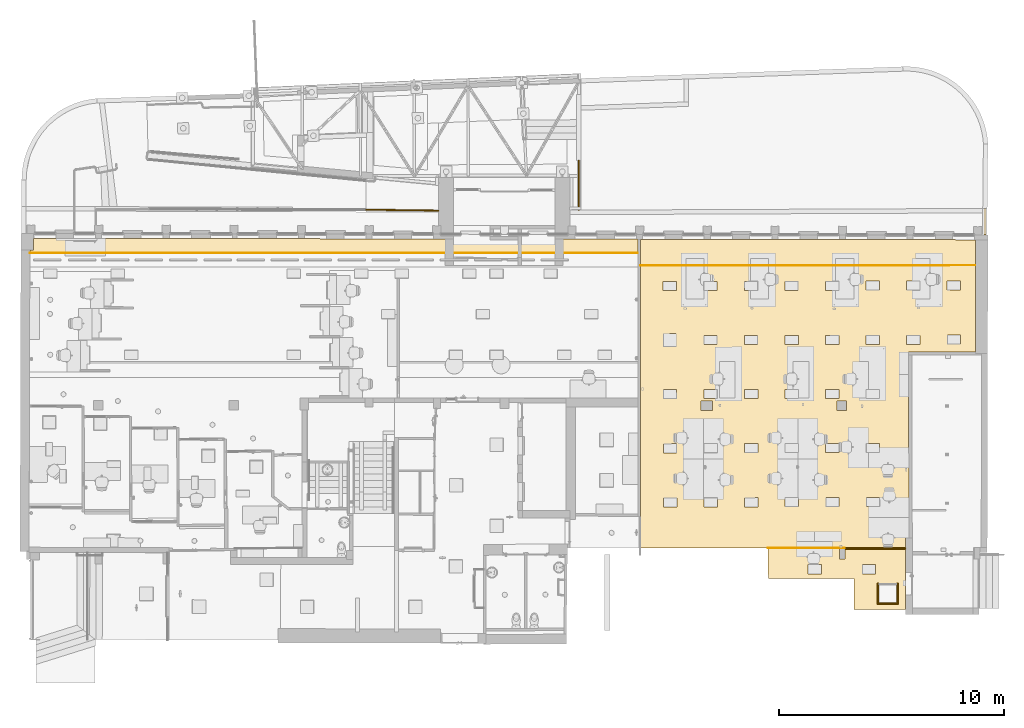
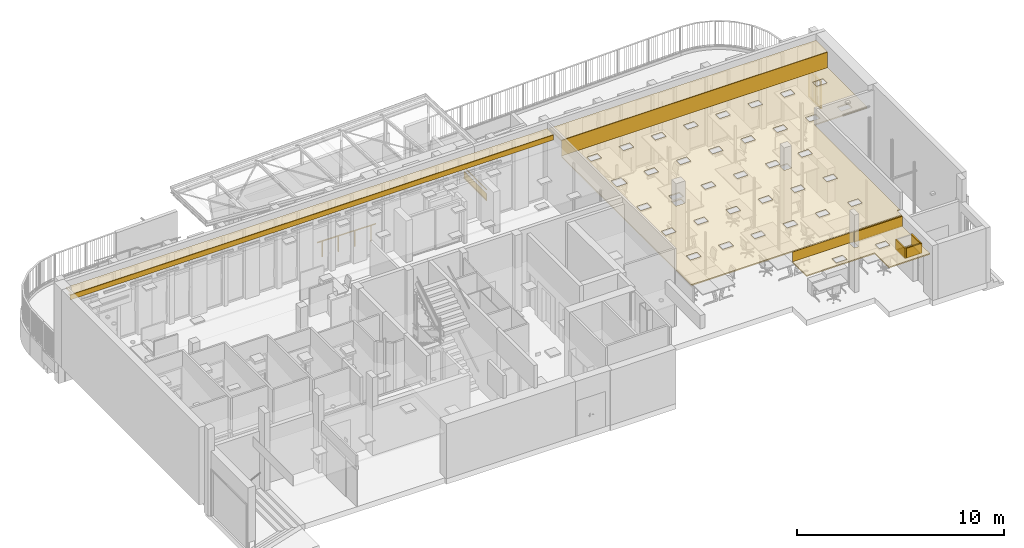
# One storey, part 52 of 128: 11 coverings, 3 railings.
"""IFC2X3 building model written with IfcOpenShell, lengths in metres."""

import ifcopenshell
import ifcopenshell.guid

model = None  # the IFC model being written
_history = None  # IfcOwnerHistory: only IFC2X3 demands one
_inside = {}  # id of a spatial element -> (the spatial element, [elements in it])
_under = {}  # id of a project, library or spatial element -> (it, [spatial elements below it])
_declared = {}  # id of a project -> (the project, [libraries it declares])
_typed = {}  # id of a type object -> (the type object, [elements of that type])
_made_of = {}  # id of a material, layer set ... -> (it, [elements and type objects made of it])


def new_model(schema):
    """Start an empty IFC model of exactly this schema.

    Asked for "IFC4X3", IfcOpenShell would pick the latest addendum, in which some entities
    have other attributes; the version numbers below select the first issue.
    IFC2X3 requires an IfcOwnerHistory on every rooted entity: one is made here for all.
    """
    global model, _history
    if schema == "IFC4X3":
        model = ifcopenshell.file(schema_version=(4, 3, 0, 0))
    else:
        model = ifcopenshell.file(schema=schema)
    _inside.clear()
    _under.clear()
    _declared.clear()
    _typed.clear()
    _made_of.clear()
    _history = None
    if model.schema == "IFC2X3":
        org = make("IfcOrganization", Name="unknown")
        user = make(
            "IfcPersonAndOrganization",
            ThePerson=make("IfcPerson", FamilyName="unknown"),
            TheOrganization=org,
        )
        app = make(
            "IfcApplication",
            ApplicationDeveloper=org,
            Version="unknown",
            ApplicationFullName="unknown",
            ApplicationIdentifier="unknown",
        )
        _history = make(
            "IfcOwnerHistory",
            OwningUser=user,
            OwningApplication=app,
            ChangeAction="ADDED",
            CreationDate=0,
        )
    return model


def make(cls, **values):
    """One entity of the class cls with the attributes given. An attribute that is None is left unset."""
    return model.create_entity(
        cls, **{name: value for name, value in values.items() if value is not None}
    )


def entity(cls, *values):
    """Any entity or typed value of the class cls, its attributes in the order of the schema. None: left unset."""
    e = model.create_entity(cls)
    for i, value in enumerate(values):
        if value is not None:
            e[i] = value
    return e


def rooted(cls, **values):
    """An entity with a GlobalId (a new one), such as an element, a storey or a relation."""
    return make(cls, GlobalId=ifcopenshell.guid.new(), OwnerHistory=_history, **values)


def si_unit(unit_type, name, prefix=None):
    """IfcSIUnit, for example si_unit("LENGTHUNIT", "METRE", prefix="MILLI")."""
    return make("IfcSIUnit", UnitType=unit_type, Prefix=prefix, Name=name)


def converted_unit(unit_type, name, factor, base, dimensions=None, offset=None):
    """IfcConversionBasedUnit, such as the inch: factor (a typed value) times the base unit."""
    return make(
        "IfcConversionBasedUnit"
        if offset is None
        else "IfcConversionBasedUnitWithOffset",
        ConversionOffset=offset,
        Dimensions=None
        if dimensions is None
        else entity("IfcDimensionalExponents", *dimensions),
        UnitType=unit_type,
        Name=name,
        ConversionFactor=make(
            "IfcMeasureWithUnit", ValueComponent=factor, UnitComponent=base
        ),
    )


def derived_unit(unit_type, elements):
    """IfcDerivedUnit: a product of units, each with its exponent."""
    return make(
        "IfcDerivedUnit",
        Elements=[
            make("IfcDerivedUnitElement", Unit=unit, Exponent=power)
            for unit, power in elements
        ],
        UnitType=unit_type,
    )


def assignment(units):
    """IfcUnitAssignment: the units of a project."""
    return None if units is None else make("IfcUnitAssignment", Units=units)


def point(xyz):
    """IfcCartesianPoint."""
    return None if xyz is None else make("IfcCartesianPoint", Coordinates=xyz)


def direction(xyz):
    """IfcDirection."""
    return None if xyz is None else make("IfcDirection", DirectionRatios=xyz)


def frame(location, z_axis=None, x_axis=None):
    """IfcAxis2Placement3D, a coordinate frame: its origin and axes. An axis left out is left unset."""
    return make(
        "IfcAxis2Placement3D",
        Location=point(location),
        Axis=direction(z_axis),
        RefDirection=direction(x_axis),
    )


def frame_2d(location, x_axis=None):
    """IfcAxis2Placement2D, a coordinate frame in the plane: its origin and x axis."""
    return make(
        "IfcAxis2Placement2D", Location=point(location), RefDirection=direction(x_axis)
    )


def origin():
    """The frame at (0, 0, 0) with its axes left unset."""
    return frame((0.0, 0.0, 0.0))


def origin_2d_with_axis():
    """The frame at (0, 0) in the plane with the x axis (1, 0) written out."""
    return frame_2d((0.0, 0.0), x_axis=(1.0, 0.0))


def place(relative_to, where):
    """IfcLocalPlacement: puts the frame where relative to a parent placement (None: the world)."""
    return make(
        "IfcLocalPlacement", PlacementRelTo=relative_to, RelativePlacement=where
    )


def context(
    kind, dimensions, precision=None, world=None, true_north=None, identifier=None
):
    """IfcGeometricRepresentationContext, for example the 3D "Model" context."""
    return make(
        "IfcGeometricRepresentationContext",
        ContextIdentifier=identifier,
        ContextType=kind,
        CoordinateSpaceDimension=dimensions,
        Precision=precision,
        WorldCoordinateSystem=world,
        TrueNorth=true_north,
    )


def subcontext(parent, identifier, kind, view, scale=None):
    """IfcGeometricRepresentationSubContext, for example "Body" below "Model"."""
    return make(
        "IfcGeometricRepresentationSubContext",
        ContextIdentifier=identifier,
        ContextType=kind,
        ParentContext=parent,
        TargetScale=scale,
        TargetView=view,
    )


def project(units=None, contexts=None):
    """IfcProject with its units and contexts."""
    return rooted(
        "IfcProject",
        Name="project",
        RepresentationContexts=contexts,
        UnitsInContext=assignment(units),
    )


def spatial(cls, under=None, at=None, **own):
    """A site, building, storey or space (cls), placed at a placement, below another one or the project."""
    s = rooted(cls, ObjectPlacement=at, **own)
    if under is not None:
        _under.setdefault(under.id(), (under, []))[1].append(s)
    return s


def polyline(points):
    """IfcPolyline through the points."""
    return make("IfcPolyline", Points=[point(p) for p in points])


def profile(cls, at=None, kind="AREA", **sizes):
    """A parametric profile (cls). Its sizes go by their IFC names, for example OverallWidth=200.0."""
    return make(cls, ProfileType=kind, Position=at, **sizes)


def rectangle(**sizes):
    """IfcRectangleProfileDef."""
    return profile("IfcRectangleProfileDef", **sizes)


def circle(**sizes):
    """IfcCircleProfileDef."""
    return profile("IfcCircleProfileDef", **sizes)


def outline(outer, holes=None, kind="AREA"):
    """IfcArbitraryClosedProfileDef: a profile drawn as a closed curve; with holes, ...WithVoids."""
    if holes is None:
        return make("IfcArbitraryClosedProfileDef", ProfileType=kind, OuterCurve=outer)
    return make(
        "IfcArbitraryProfileDefWithVoids",
        ProfileType=kind,
        OuterCurve=outer,
        InnerCurves=holes,
    )


def extrude(swept, where, along, depth):
    """IfcExtrudedAreaSolid: the profile swept, set in the frame where, extruded along a direction by depth."""
    return make(
        "IfcExtrudedAreaSolid",
        SweptArea=swept,
        Position=where,
        ExtrudedDirection=direction(along),
        Depth=depth,
    )


def clip(a, b, op="DIFFERENCE"):
    """IfcBooleanClippingResult: the solid a cut by the half space b."""
    return make(
        "IfcBooleanClippingResult", Operator=op, FirstOperand=a, SecondOperand=b
    )


def bounded_halfspace(plane, agree, where, boundary):
    """IfcPolygonalBoundedHalfSpace: a half space limited to a polygon's prism."""
    return make(
        "IfcPolygonalBoundedHalfSpace",
        BaseSurface=make("IfcPlane", Position=plane),
        AgreementFlag=agree,
        Position=where,
        PolygonalBoundary=boundary,
    )


def shape(context_of_items, identifier, shape_type, items):
    """IfcShapeRepresentation: the items that make up one representation, for example the "Body"."""
    return make(
        "IfcShapeRepresentation",
        ContextOfItems=context_of_items,
        RepresentationIdentifier=identifier,
        RepresentationType=shape_type,
        Items=items,
    )


def material(Name=None, Category=None):
    """IfcMaterial."""
    return make("IfcMaterial", Name=Name, Category=Category)


def material_list(materials):
    """IfcMaterialList."""
    return make("IfcMaterialList", Materials=materials)


def layer(
    of_material, thickness, ventilated=None, Name=None, Category=None, Priority=None
):
    """IfcMaterialLayer: one layer of a wall or slab, of a material (None: an air gap)."""
    return make(
        "IfcMaterialLayer",
        Material=of_material,
        LayerThickness=thickness,
        IsVentilated=ventilated,
        Name=Name,
        Category=Category,
        Priority=Priority,
    )


def layer_set(layers, Name=None):
    """IfcMaterialLayerSet."""
    return make("IfcMaterialLayerSet", MaterialLayers=layers, LayerSetName=Name)


def layer_usage(for_layer_set, set_direction, sense, offset, extent=None):
    """IfcMaterialLayerSetUsage: how a layer set lies in its element."""
    return make(
        "IfcMaterialLayerSetUsage",
        ForLayerSet=for_layer_set,
        LayerSetDirection=set_direction,
        DirectionSense=sense,
        OffsetFromReferenceLine=offset,
        ReferenceExtent=extent,
    )


def made_of(thing, what):
    """Note that an element or type object is made of a material, layer set ...; save() writes the relation."""
    if what is not None:
        _made_of.setdefault(what.id(), (what, []))[1].append(thing)
    return thing


def type_object(cls, material=None, **own):
    """A type object (cls), such as IfcWallType, which elements share."""
    return made_of(rooted(cls, **own), material)


def element(
    cls,
    number,
    at=None,
    inside=None,
    cuts=None,
    type_object=None,
    material=None,
    context=None,
    identifier="Body",
    shape_type=None,
    held_by="IfcProductDefinitionShape",
    body=None,
    shapes=None,
    **own,
):
    """One element of the class cls, such as IfcWall. Its Tag is "e" and its number.

    at: its placement. inside: the storey or other place that contains it. cuts: it is an
    opening in that element (IfcRelVoidsElement). A single representation is given by context,
    identifier, shape_type and body (its items); several are given by shapes. held_by: the class
    of the entity that holds the representations. save() writes the other relations.
    """
    e = rooted(cls, Tag="e%d" % number, ObjectPlacement=at, **own)
    if body is not None:
        shapes = [shape(context, identifier, shape_type, body)]
    if shapes is not None:
        e.Representation = make(held_by, Representations=shapes)
    if inside is not None:
        _inside.setdefault(inside.id(), (inside, []))[1].append(e)
    if cuts is not None:
        rooted(
            "IfcRelVoidsElement", RelatingBuildingElement=cuts, RelatedOpeningElement=e
        )
    if type_object is not None:
        _typed.setdefault(type_object.id(), (type_object, []))[1].append(e)
    return made_of(e, material)


def aggregate(whole, parts):
    """IfcRelAggregates: a whole, such as a stair, and the parts it consists of."""
    return rooted("IfcRelAggregates", RelatingObject=whole, RelatedObjects=parts)


def save(model, path):
    """Write the relations noted so far, then the file.

    IfcRelAggregates (storeys below a building ...), IfcRelContainedInSpatialStructure (elements
    in a storey), IfcRelDefinesByType, IfcRelAssociatesMaterial and IfcRelDeclares: one each for
    every whole, place, type object, material and project.
    """
    for whole, parts in _under.values():
        aggregate(whole, parts)
    for where, things in _inside.values():
        rooted(
            "IfcRelContainedInSpatialStructure",
            RelatedElements=things,
            RelatingStructure=where,
        )
    for kind, things in _typed.values():
        rooted("IfcRelDefinesByType", RelatedObjects=things, RelatingType=kind)
    for what, things in _made_of.values():
        rooted("IfcRelAssociatesMaterial", RelatedObjects=things, RelatingMaterial=what)
    for by, libraries in _declared.values():
        rooted("IfcRelDeclares", RelatingContext=by, RelatedDefinitions=libraries)
    model.write(path)


model = new_model("IFC2X3")

# Units and contexts
model_context = context("Model", 3, precision=1e-05, world=origin(), true_north=direction((6.123031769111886e-17, 1.0)))
body_context = subcontext(model_context, "Body", "Model", "MODEL_VIEW")
ifc_project = project(units=[si_unit("LENGTHUNIT", "METRE"), si_unit("AREAUNIT", "SQUARE_METRE"), converted_unit("PLANEANGLEUNIT", "DEGREE", entity("IfcPlaneAngleMeasure", 0.017453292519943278), si_unit("PLANEANGLEUNIT", "RADIAN"), dimensions=[0, 0, 0, 0, 0, 0, 0]), derived_unit("THERMALTRANSMITTANCEUNIT", [(si_unit("MASSUNIT", "GRAM", prefix="KILO"), 1), (si_unit("THERMODYNAMICTEMPERATUREUNIT", "KELVIN"), -1), (si_unit("TIMEUNIT", "SECOND"), -3)])], contexts=[model_context])

# Site, building, storey
site_placement = place(None, origin())
site = spatial("IfcSite", under=ifc_project, at=site_placement, Name="Default", CompositionType="ELEMENT")
building_placement = place(site_placement, origin())
building = spatial("IfcBuilding", under=site, at=building_placement, CompositionType="ELEMENT")
storey_placement = place(building_placement, origin())
storey = spatial("IfcBuildingStorey", under=building, at=storey_placement, Name="00_RDC CAF", CompositionType="ELEMENT", Elevation=2.4982504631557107e-13)

# Coverings
ifc_material_1 = material(Name="ARC - FP - Blanc")
ifc_layer_1 = layer(ifc_material_1, 0.02)
ifc_material_2 = material(Name="ARC - FP - Trame 600 x 600")
ifc_layer_2 = layer(ifc_material_2, 0.05)
ifc_layer_set_1 = layer_set([ifc_layer_1, ifc_layer_2], Name="Plafond composé:FP_Dalle-600X600_70mm")
ifc_layer_usage_1 = layer_usage(ifc_layer_set_1, "AXIS3", "NEGATIVE", 0.07)
covering_type_1 = type_object("IfcCoveringType", Name="Plafond composé:FP_Dalle-600X600_70mm", PredefinedType="CEILING")
covering_1_placement = place(storey_placement, origin())
element("IfcCovering", 1, at=covering_1_placement, inside=storey, type_object=covering_type_1, material=ifc_layer_usage_1, Name="Plafond composé:FP_Dalle-600X600_70mm", ObjectType="Plafond composé:FP_Dalle-600X600_70mm", PredefinedType="CEILING", context=body_context, shape_type="SweptSolid", body=[
    extrude(outline(polyline([(-17.931653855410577, -0.3796394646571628), (8.890602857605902, -0.3796394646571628), (8.891297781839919, 0.1444854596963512), (9.041297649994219, 0.14428657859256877), (9.041446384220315, 0.25646472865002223), (-17.9329908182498, 0.214042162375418), (-17.931653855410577, -0.3796394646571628)])), frame((15.74097069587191, 143.56477787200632, 4.150000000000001), z_axis=(0.0, 0.0, 1.0), x_axis=(-0.9999987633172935, 0.0015726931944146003, 0.0)), (0.0, 0.0, 1.0), 0.06999999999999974),
])
ifc_layer_usage_2 = layer_usage(ifc_layer_set_1, "AXIS3", "NEGATIVE", 0.07)
covering_2_placement = place(storey_placement, origin())
element("IfcCovering", 2, at=covering_2_placement, inside=storey, type_object=covering_type_1, material=ifc_layer_usage_2, Name="Plafond composé:FP_Dalle-600X600_70mm", ObjectType="Plafond composé:FP_Dalle-600X600_70mm", PredefinedType="CEILING", context=body_context, shape_type="SweptSolid", body=[
    extrude(outline(polyline([(-4.811148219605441, 2.5696576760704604), (-4.8176970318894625, -3.5306221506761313), (-4.8237638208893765, -9.181892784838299), (7.713218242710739, -9.19040901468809), (7.730858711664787, 5.672948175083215), (3.8801204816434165, 5.664454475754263), (3.880120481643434, 2.7060063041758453), (-4.375854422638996, 2.720199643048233), (-4.375854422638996, 2.5696576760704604), (-4.811148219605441, 2.5696576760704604)]), holes=[polyline([(-0.5985533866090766, -8.170243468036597), (-0.597853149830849, -7.580243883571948), (-0.19785343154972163, -7.580718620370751), (-0.1985536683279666, -8.170718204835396), (-0.5985533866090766, -8.170243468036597)]), polyline([(-0.5964155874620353, -6.370244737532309), (-0.5957153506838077, -5.780245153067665), (-0.19571563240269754, -5.780719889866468), (-0.19641586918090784, -6.370719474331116), (-0.5964155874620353, -6.370244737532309)]), polyline([(-0.5942792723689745, -4.570246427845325), (-0.5935790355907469, -3.980246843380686), (-0.19357931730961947, -3.98072158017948), (-0.19427955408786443, -4.570721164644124), (-0.5942792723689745, -4.570246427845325)]), polyline([(-0.5878703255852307, 0.8297497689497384), (-0.587170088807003, 1.419749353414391), (-0.187170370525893, 1.4192746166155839), (-0.18787060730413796, 0.82927503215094), (-0.5878703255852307, 0.8297497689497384)]), polyline([(-0.5900066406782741, -0.970248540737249), (-0.5893064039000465, -0.38024895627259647), (-0.18930668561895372, -0.3807236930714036), (-0.19000692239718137, -0.9707232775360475), (-0.5900066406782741, -0.970248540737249)]), polyline([(-0.592142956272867, -2.770247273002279), (-0.5914427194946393, -2.1802476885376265), (-0.1914430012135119, -2.1807224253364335), (-0.19214323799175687, -2.7707220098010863), (-0.592142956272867, -2.770247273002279)]), polyline([(-2.9878720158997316, 0.8325981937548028), (-2.987171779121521, 1.4225977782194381), (-2.587172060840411, 1.4221230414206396), (-2.5878722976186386, 0.8321234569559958), (-2.9878720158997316, 0.8325981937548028)]), polyline([(-2.990008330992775, -0.9674001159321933), (-2.989308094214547, -0.3774005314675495), (-2.5893083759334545, -0.3778752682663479), (-2.590008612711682, -0.9678748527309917), (-2.990008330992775, -0.9674001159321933)]), polyline([(-2.992144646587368, -2.767398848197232), (-2.99144440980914, -2.1773992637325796), (-2.5914446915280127, -2.1778740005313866), (-2.5921449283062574, -2.7678735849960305), (-2.992144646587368, -2.767398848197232)]), polyline([(-2.9942809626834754, -4.567398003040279), (-2.9935807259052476, -3.9773984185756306), (-2.5935810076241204, -3.9778731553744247), (-2.594281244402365, -4.567872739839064), (-2.9942809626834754, -4.567398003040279)]), polyline([(-2.996417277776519, -6.367396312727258), (-2.9957170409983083, -5.777396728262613), (-2.5957173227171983, -5.777871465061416), (-2.5964175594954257, -6.367871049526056), (-2.996417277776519, -6.367396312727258)]), polyline([(-2.99855507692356, -8.167395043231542), (-2.9978548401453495, -7.577395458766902), (-2.5978551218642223, -7.577870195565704), (-2.5985553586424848, -8.167869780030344), (-2.99855507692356, -8.167395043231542)]), polyline([(1.8121313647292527, 0.8269013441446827), (1.8128316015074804, 1.4169009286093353), (2.2128313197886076, 1.4164261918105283), (2.212131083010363, 0.8264266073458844), (1.8121313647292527, 0.8269013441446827)]), polyline([(1.8099950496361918, -0.9730969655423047), (1.8106952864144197, -0.3830973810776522), (2.2106950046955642, -0.3835721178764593), (2.2099947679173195, -0.9735717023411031), (1.8099950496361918, -0.9730969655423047)]), polyline([(1.807858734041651, -2.7730956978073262), (1.8085589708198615, -2.1830961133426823), (2.2085586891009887, -2.183570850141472), (2.207858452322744, -2.773570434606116), (1.807858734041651, -2.7730956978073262)]), polyline([(1.8057224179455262, -4.573094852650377), (1.8064226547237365, -3.983095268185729), (2.2064223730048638, -3.9835700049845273), (2.2057221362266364, -4.573569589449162), (1.8057224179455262, -4.573094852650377)]), polyline([(1.803586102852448, -6.37309316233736), (1.8042863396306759, -5.783093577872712), (2.2042860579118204, -5.783568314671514), (2.2035858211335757, -6.373567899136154), (1.803586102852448, -6.37309316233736)]), polyline([(1.801448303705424, -8.17309189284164), (1.8021485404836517, -7.583092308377), (2.202148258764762, -7.583567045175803), (2.201448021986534, -8.173566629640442), (1.801448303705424, -8.17309189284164)]), polyline([(4.2121311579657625, 0.8240529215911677), (4.212831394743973, 1.4140525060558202), (4.612831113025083, 1.413577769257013), (4.612130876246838, 0.8235781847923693), (4.2121311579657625, 0.8240529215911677)]), polyline([(4.209994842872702, -0.9759453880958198), (4.21069507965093, -0.38594580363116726), (4.610694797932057, -0.3864205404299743), (4.609994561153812, -0.9764201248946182), (4.209994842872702, -0.9759453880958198)]), polyline([(4.207858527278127, -2.7759441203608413), (4.208558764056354, -2.1859445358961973), (4.608558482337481, -2.186419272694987), (4.607858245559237, -2.7764188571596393), (4.207858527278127, -2.7759441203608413)]), polyline([(4.205722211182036, -4.575943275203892), (4.206422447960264, -3.9859436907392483), (4.606422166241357, -3.9864184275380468), (4.6057219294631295, -4.576418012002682), (4.205722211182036, -4.575943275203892)]), polyline([(4.203585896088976, -6.375941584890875), (4.204286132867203, -5.785942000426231), (4.604285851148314, -5.786416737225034), (4.6035856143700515, -6.376416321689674), (4.203585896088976, -6.375941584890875)]), polyline([(4.121465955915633, -8.160845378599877), (4.122130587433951, -7.600845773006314), (4.682130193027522, -7.601510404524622), (4.681465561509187, -8.161510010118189), (4.121465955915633, -8.160845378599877)]), polyline([(6.612124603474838, 0.8212045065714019), (6.612824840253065, 1.4112040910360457), (7.0128245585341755, 1.4107293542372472), (7.012124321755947, 0.8207297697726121), (6.612124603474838, 0.8212045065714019)]), polyline([(6.609988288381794, -0.9787938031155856), (6.610688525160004, -0.38879421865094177), (7.010688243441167, -0.38926895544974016), (7.009988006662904, -0.979268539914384), (6.609988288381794, -0.9787938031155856)]), polyline([(6.607851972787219, -2.7787925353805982), (6.608552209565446, -2.1887929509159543), (7.0085519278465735, -2.1892676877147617), (7.007851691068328, -2.7792672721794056), (6.607851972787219, -2.7787925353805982)]), polyline([(6.605715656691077, -4.5787916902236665), (6.606415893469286, -3.9887921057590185), (7.006415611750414, -3.9892668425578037), (7.005715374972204, -4.579266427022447), (6.605715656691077, -4.5787916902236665)]), polyline([(6.6035793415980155, -6.378789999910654), (6.604279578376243, -5.788790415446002), (7.004279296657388, -5.7892651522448), (7.003579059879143, -6.379264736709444), (6.6035793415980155, -6.378789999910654)]), polyline([(6.601443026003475, -8.178788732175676), (6.602143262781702, -7.588789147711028), (7.00214298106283, -7.58926388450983), (7.001442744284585, -8.179263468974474), (6.601443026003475, -8.178788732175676)]), polyline([(4.214262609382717, 2.624051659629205), (4.214962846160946, 3.2140512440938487), (4.614962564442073, 3.2135765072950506), (4.6142623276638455, 2.6235769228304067), (4.214262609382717, 2.624051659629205)]), polyline([(4.216398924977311, 4.424050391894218), (4.217099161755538, 5.01404997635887), (4.617098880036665, 5.013575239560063), (4.616398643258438, 4.423575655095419), (4.216398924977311, 4.424050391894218)]), polyline([(6.616397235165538, 4.4212023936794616), (6.617097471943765, 5.011201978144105), (7.017097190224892, 5.010727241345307), (7.016396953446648, 4.420727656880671), (6.616397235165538, 4.4212023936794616)]), polyline([(6.614260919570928, 2.621203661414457), (6.614961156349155, 3.2112032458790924), (7.0149608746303, 3.210728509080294), (7.014260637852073, 2.62072892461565), (6.614260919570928, 2.621203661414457)]), polyline([(1.7003051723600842, -6.504837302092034), (1.2803051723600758, -6.504837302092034), (1.2803051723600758, -5.984837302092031), (1.7003051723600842, -5.984837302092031), (1.7003051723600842, -6.504837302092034)]), polyline([(1.7003051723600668, -0.04968089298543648), (1.7003051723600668, -0.46968089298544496), (1.2803051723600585, -0.46968089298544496), (1.2803051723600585, -0.04968089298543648), (1.7003051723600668, -0.04968089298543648)])]), frame((42.97439700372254, 135.04217783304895, 3.2), z_axis=(0.0, 0.0, -1.0), x_axis=(0.0, 1.0, 0.0)), (0.0, 0.0, -1.0), 0.06999999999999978),
])
ifc_layer_usage_3 = layer_usage(ifc_layer_set_1, "AXIS3", "NEGATIVE", 0.07)
covering_3_placement = place(storey_placement, origin())
element("IfcCovering", 3, at=covering_3_placement, inside=storey, type_object=covering_type_1, material=ifc_layer_usage_3, Name="Plafond composé:FP_Dalle-600X600_70mm", ObjectType="Plafond composé:FP_Dalle-600X600_70mm", PredefinedType="CEILING", context=body_context, shape_type="SweptSolid", body=[
    extrude(outline(polyline([(-7.43278070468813, -0.5700672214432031), (7.43058695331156, -0.5700672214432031), (7.434385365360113, 0.5495547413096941), (-7.432191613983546, 0.5905797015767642), (-7.43278070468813, -0.5700672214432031)])), frame((41.21608687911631, 143.3342844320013, 4.127999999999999), z_axis=(0.0, 0.0, 1.0), x_axis=(0.999999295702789, 0.0011868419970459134, 0.0)), (0.0, 0.0, 1.0), 0.06999999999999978),
])
ifc_layer_usage_4 = layer_usage(ifc_layer_set_1, "AXIS3", "NEGATIVE", 0.07)
covering_4_placement = place(storey_placement, origin())
element("IfcCovering", 4, at=covering_4_placement, inside=storey, type_object=covering_type_1, material=ifc_layer_usage_4, Name="Plafond composé:FP_Dalle-600X600_70mm", ObjectType="Plafond composé:FP_Dalle-600X600_70mm", PredefinedType="CEILING", context=body_context, shape_type="SweptSolid", body=[
    extrude(outline(polyline([(-3.2903665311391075, 0.43689105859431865), (-3.3034073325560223, -0.9133582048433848), (-0.1314661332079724, -0.9167627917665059), (-0.1309293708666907, -0.4167636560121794), (0.1190704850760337, -0.4170320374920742), (0.11853372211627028, -0.9170317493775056), (2.7968724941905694, -0.9199070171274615), (2.796872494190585, 1.8100760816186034), (0.5124100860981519, 1.8169972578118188), (0.5124100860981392, 0.43689105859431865), (-3.2903665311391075, 0.43689105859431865)]), holes=[polyline([(2.4060510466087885, 0.718639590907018), (1.6060510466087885, 0.7186395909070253), (1.6060510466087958, 1.518639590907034), (2.4060510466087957, 1.5186395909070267), (2.4060510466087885, 0.718639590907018)]), polyline([(1.4716155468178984, -0.1655921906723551), (0.8816155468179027, -0.1655921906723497), (0.8816155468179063, 0.23440780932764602), (1.4716155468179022, 0.23440780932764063), (1.4716155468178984, -0.1655921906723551)]), polyline([(-0.9283844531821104, -0.16559219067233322), (-1.5183844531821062, -0.16559219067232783), (-1.5183844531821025, 0.23440780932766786), (-0.9283844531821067, 0.23440780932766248), (-0.9283844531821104, -0.16559219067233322)])]), frame((42.74718218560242, 129.31112259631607, 2.5800000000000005), z_axis=(0.0, 0.0, -1.0), x_axis=(1.0, 0.0, 0.0)), (0.0, 0.0, -1.0), 0.06999999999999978),
])
ifc_layer_3 = layer(ifc_material_1, 0.02)
ifc_layer_set_2 = layer_set([ifc_layer_3], Name="Mur de base:FP_Platre_20mm_Joue_de_plafond")
ifc_layer_usage_5 = layer_usage(ifc_layer_set_2, "AXIS2", "NEGATIVE", 0.01)
covering_type_2 = type_object("IfcCoveringType", Name="Mur de base:FP_Platre_20mm_Joue_de_plafond", PredefinedType="CEILING", material=ifc_layer_set_2)
covering_5_placement = place(storey_placement, frame((6.699074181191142, 143.3125328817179, 3.919999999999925)))
element("IfcCovering", 5, at=covering_5_placement, inside=storey, type_object=covering_type_2, material=ifc_layer_usage_5, Name="Mur de base:FP_Platre_20mm_Joue_de_plafond", ObjectType="Mur de base:FP_Platre_20mm_Joue_de_plafond", PredefinedType="CEILING", context=body_context, shape_type="SweptSolid", body=[
    extrude(outline(polyline([(26.974542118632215, -0.009999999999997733), (26.97452853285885, 0.00999999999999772), (5.797152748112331e-05, 0.009999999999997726), (0.0, -0.009999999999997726), (26.974542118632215, -0.009999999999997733)])), origin(), (0.0, 0.0, 1.0), 0.3000000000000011),
])
ifc_layer_usage_6 = layer_usage(ifc_layer_set_2, "AXIS2", "NEGATIVE", 0.01)
covering_6_placement = place(storey_placement, frame((33.78398970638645, 142.74539607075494, 3.27), z_axis=(0.0, 0.0, 1.0), x_axis=(0.9999992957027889, 0.0011868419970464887, 0.0)))
element("IfcCovering", 6, at=covering_6_placement, inside=storey, type_object=covering_type_2, material=ifc_layer_usage_6, Name="Mur de base:FP_Platre_20mm_Joue_de_plafond", ObjectType="Mur de base:FP_Platre_20mm_Joue_de_plafond", PredefinedType="CEILING", context=body_context, shape_type="Clipping", body=[
    clip(extrude(outline(polyline([(0.0, -0.010000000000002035), (14.863309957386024, -0.010000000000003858), (14.863377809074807, 0.010000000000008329), (1.0151075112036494e-05, 0.00999999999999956), (0.0, -0.010000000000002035)])), origin(), (0.0, 0.0, 1.0), 0.9279999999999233), bounded_halfspace(frame((14.863309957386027, -0.009999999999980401, 0.0), z_axis=(0.0, 0.0, 1.0), x_axis=(0.0011868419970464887, 0.9999992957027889, 0.0)), True, frame((14.863309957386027, -0.009999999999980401, 0.0), z_axis=(0.0, 0.0, 1.0), x_axis=(0.0011868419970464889, 0.999999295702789, 0.0)), polyline([(0.0, 0.0), (0.020000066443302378, -4.411480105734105e-05), (0.0023595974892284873, 14.863313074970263), (-0.01764040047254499, 14.863299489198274), (0.0, 0.0)]))),
])
ifc_layer_usage_7 = layer_usage(ifc_layer_set_2, "AXIS2", "NEGATIVE", 0.01)
covering_7_placement = place(storey_placement, frame((39.44378558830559, 130.21448080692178, 2.629999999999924), z_axis=(0.0, 0.0, 1.0), x_axis=(0.999999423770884, 0.0010735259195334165, 0.0)))
element("IfcCovering", 7, at=covering_7_placement, inside=storey, type_object=covering_type_2, material=ifc_layer_usage_7, Name="Mur de base:FP_Platre_20mm_Joue_de_plafond", ObjectType="Mur de base:FP_Platre_20mm_Joue_de_plafond", PredefinedType="CEILING", context=body_context, shape_type="Clipping", body=[
    clip(extrude(rectangle(XDim=3.3965430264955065, YDim=0.019999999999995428, at=frame_2d((1.6982715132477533, -4.193694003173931e-15), x_axis=(-1.0, 0.0))), origin(), (0.0, 0.0, 1.0), 0.6000000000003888), bounded_halfspace(frame((3.171943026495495, 0.009999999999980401, 0.020000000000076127), z_axis=(0.0, 0.0, 1.0), x_axis=(0.00858413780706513, -0.9999631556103, 0.0)), True, frame((3.171943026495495, 0.009999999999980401, 0.020000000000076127), z_axis=(0.0, 0.0, 1.0), x_axis=(0.008584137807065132, -0.9999631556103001, 0.0)), polyline([(0.0, 0.0), (-0.027228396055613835, -3.1718261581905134), (-0.007227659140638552, -3.171826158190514), (0.019999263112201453, -0.00017168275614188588), (0.0, 0.0)]))),
])
ifc_layer_4 = layer(ifc_material_1, 0.07)
ifc_layer_set_3 = layer_set([ifc_layer_4], Name="Mur de base:FP_Platre_70mm_Joue_de_plafond")
ifc_layer_usage_8 = layer_usage(ifc_layer_set_3, "AXIS2", "NEGATIVE", 0.035)
covering_type_3 = type_object("IfcCoveringType", Name="Mur de base:FP_Platre_70mm_Joue_de_plafond", PredefinedType="CEILING", material=ifc_layer_set_3)
covering_8_placement = place(storey_placement, frame((44.3182332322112, 128.66248300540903, 2.6500000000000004), z_axis=(0.0, 0.0, 1.0), x_axis=(0.0, -1.0, 0.0)))
element("IfcCovering", 8, at=covering_8_placement, inside=storey, type_object=covering_type_3, material=ifc_layer_usage_8, Name="Mur de base:FP_Platre_70mm_Joue_de_plafond", ObjectType="Mur de base:FP_Platre_70mm_Joue_de_plafond", PredefinedType="CEILING", context=body_context, shape_type="Clipping", body=[
    clip(extrude(rectangle(XDim=0.9400000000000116, YDim=0.07000000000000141, at=frame_2d((0.4700000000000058, 0.0), x_axis=(-1.0, 0.0))), origin(), (0.0, 0.0, 1.0), 0.5800000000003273), bounded_halfspace(frame((0.9400000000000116, -0.035000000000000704, 0.0), z_axis=(0.0, 0.0, 1.0), x_axis=(0.9999533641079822, 0.009657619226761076, 0.0)), True, frame((0.9400000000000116, -0.035000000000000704, 0.0), z_axis=(0.0, 0.0, 1.0), x_axis=(0.9999533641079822, 0.009657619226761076, 0.0)), polyline([(0.0, 0.0), (0.0006760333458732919, 0.06999673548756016), (-0.06932070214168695, 0.07067276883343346), (-0.8692833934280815, 0.0783988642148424), (-0.9392801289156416, 0.07907489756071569), (-0.9399561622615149, 0.009078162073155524), (0.0, 0.0)]))),
])
ifc_layer_usage_9 = layer_usage(ifc_layer_set_3, "AXIS2", "NEGATIVE", 0.035)
covering_9_placement = place(storey_placement, frame((44.3532332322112, 127.75748300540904, 2.6500000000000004)))
element("IfcCovering", 9, at=covering_9_placement, inside=storey, type_object=covering_type_3, material=ifc_layer_usage_9, Name="Mur de base:FP_Platre_70mm_Joue_de_plafond", ObjectType="Mur de base:FP_Platre_70mm_Joue_de_plafond", PredefinedType="CEILING", context=body_context, shape_type="Clipping", body=[
    clip(extrude(rectangle(XDim=0.8700000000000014, YDim=0.06999999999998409, at=frame_2d((0.4350000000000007, 0.0), x_axis=(-1.0, 0.0))), origin(), (0.0, 0.0, 1.0), 0.5800000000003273), bounded_halfspace(frame((0.8700000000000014, -0.03500000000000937, 0.0), z_axis=(0.0, 0.0, 1.0), x_axis=(0.009657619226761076, -0.9999533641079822, 0.0)), True, frame((0.8700000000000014, -0.03500000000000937, 0.0), z_axis=(0.0, 0.0, 1.0), x_axis=(0.009657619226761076, -0.9999533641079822, 0.0)), polyline([(0.0, 0.0), (-0.06999673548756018, 0.0006760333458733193), (-0.07067276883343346, -0.06932070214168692), (-0.07839886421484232, -0.8692833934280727), (-0.008402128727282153, -0.869959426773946), (0.0, 0.0)]))),
])
ifc_layer_usage_10 = layer_usage(ifc_layer_set_3, "AXIS2", "NEGATIVE", 0.035)
covering_10_placement = place(storey_placement, frame((45.1882332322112, 127.79248300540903, 2.6500000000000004), z_axis=(0.0, 0.0, 1.0), x_axis=(0.0, 1.0, 0.0)))
element("IfcCovering", 10, at=covering_10_placement, inside=storey, type_object=covering_type_3, material=ifc_layer_usage_10, Name="Mur de base:FP_Platre_70mm_Joue_de_plafond", ObjectType="Mur de base:FP_Platre_70mm_Joue_de_plafond", PredefinedType="CEILING", context=body_context, shape_type="Clipping", body=[
    clip(extrude(rectangle(XDim=0.8700000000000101, YDim=0.07000000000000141, at=frame_2d((0.43500000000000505, 0.0), x_axis=(-1.0, 0.0))), origin(), (0.0, 0.0, 1.0), 0.5800000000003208), bounded_halfspace(frame((0.8700000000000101, -0.035000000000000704, 0.0), z_axis=(0.0, 0.0, 1.0), x_axis=(-0.9999533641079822, -0.009657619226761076, 0.0)), True, frame((0.8700000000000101, -0.035000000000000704, 0.0), z_axis=(0.0, 0.0, 1.0), x_axis=(-0.9999533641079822, -0.009657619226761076, 0.0)), polyline([(0.0, 0.0), (-0.0006760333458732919, -0.06999673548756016), (0.06932070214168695, -0.07067276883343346), (0.8692833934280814, -0.0783988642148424), (0.8699594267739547, -0.008402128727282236), (0.0, 0.0)]))),
])
ifc_layer_usage_11 = layer_usage(ifc_layer_set_3, "AXIS2", "NEGATIVE", 0.035)
covering_11_placement = place(storey_placement, frame((42.86575348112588, 130.19315436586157, 2.629999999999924), z_axis=(0.0, 0.0, 1.0), x_axis=(0.9999994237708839, 0.0010735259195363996, 0.0)))
element("IfcCovering", 11, at=covering_11_placement, inside=storey, type_object=covering_type_3, material=ifc_layer_usage_11, Name="Mur de base:FP_Platre_70mm_Joue_de_plafond", ObjectType="Mur de base:FP_Platre_70mm_Joue_de_plafond", PredefinedType="CEILING", context=body_context, shape_type="SweptSolid", body=[
    extrude(outline(polyline([(2.678265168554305, -0.03499999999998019), (2.6783403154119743, 0.03500000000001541), (0.0, 0.03500000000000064), (0.0, -0.03500000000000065), (2.678265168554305, -0.03499999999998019)])), origin(), (0.0, 0.0, 1.0), 0.6000000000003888),
])

# Railings
ifc_material_3 = material(Name="STR - Acier")
ifc_material_4 = material(Name="<Unnamed>")
ifc_material_5 = material(Name="ARC - Metal")
ifc_material_list_1 = material_list([ifc_material_3, ifc_material_4, ifc_material_5])
railing_type_1 = type_object("IfcRailingType", Name="Garde-corps:CLO_2_traverse_100x20_1610mm", PredefinedType="NOTDEFINED")
railing_1_placement = place(storey_placement, origin())
element("IfcRailing", 12, at=railing_1_placement, inside=storey, type_object=railing_type_1, material=ifc_material_list_1, Name="Garde-corps:CLO_2_traverse_100x20_1610mm", ObjectType="Garde-corps:CLO_2_traverse_100x20_1610mm", PredefinedType="NOTDEFINED", context=body_context, shape_type="SweptSolid", body=[
    extrude(rectangle(XDim=0.019999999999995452, YDim=0.10000000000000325, at=frame_2d((0.0, 4.3298697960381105e-15), x_axis=(1.0, 0.0))), frame((49.0700754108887, 144.1226520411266, -0.10470645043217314), z_axis=(0.0, 0.0, 1.0), x_axis=(0.0, 1.0, 0.0)), (0.0, 0.0, 1.0), 1.5700000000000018),
    extrude(circle(Radius=0.01, at=origin_2d_with_axis()), frame((49.0700754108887, 144.13641903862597, -0.10470645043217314)), (0.0, 0.0, 1.0), 0.009999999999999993),
    extrude(circle(Radius=0.01, at=origin_2d_with_axis()), frame((49.0700754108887, 144.13641903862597, -0.09470645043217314)), (0.0, 0.0, 1.0), 1.5599999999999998),
    extrude(circle(Radius=0.01, at=origin_2d_with_axis()), frame((49.0700754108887, 144.21213752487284, -0.10470645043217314)), (0.0, 0.0, 1.0), 0.009999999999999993),
    extrude(circle(Radius=0.01, at=origin_2d_with_axis()), frame((49.0700754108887, 144.21213752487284, -0.09470645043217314)), (0.0, 0.0, 1.0), 1.5599999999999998),
    extrude(circle(Radius=0.01, at=origin_2d_with_axis()), frame((49.0700754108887, 144.2947395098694, -0.10470645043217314)), (0.0, 0.0, 1.0), 0.009999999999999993),
    extrude(circle(Radius=0.01, at=origin_2d_with_axis()), frame((49.0700754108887, 144.2947395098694, -0.09470645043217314)), (0.0, 0.0, 1.0), 1.5599999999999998),
    extrude(circle(Radius=0.01, at=origin_2d_with_axis()), frame((49.0700754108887, 144.37734149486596, -0.10470645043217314)), (0.0, 0.0, 1.0), 0.009999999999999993),
    extrude(circle(Radius=0.01, at=origin_2d_with_axis()), frame((49.0700754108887, 144.37734149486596, -0.09470645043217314)), (0.0, 0.0, 1.0), 1.5599999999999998),
    extrude(circle(Radius=0.01, at=origin_2d_with_axis()), frame((49.0700754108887, 144.45994347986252, -0.10470645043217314)), (0.0, 0.0, 1.0), 0.009999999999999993),
    extrude(circle(Radius=0.01, at=origin_2d_with_axis()), frame((49.0700754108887, 144.45994347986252, -0.09470645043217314)), (0.0, 0.0, 1.0), 1.5599999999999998),
    extrude(circle(Radius=0.01, at=origin_2d_with_axis()), frame((49.0700754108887, 144.54254546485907, -0.10470645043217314)), (0.0, 0.0, 1.0), 0.009999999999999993),
    extrude(circle(Radius=0.01, at=origin_2d_with_axis()), frame((49.0700754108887, 144.54254546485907, -0.09470645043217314)), (0.0, 0.0, 1.0), 1.5599999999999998),
    extrude(circle(Radius=0.01, at=origin_2d_with_axis()), frame((49.0700754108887, 144.62514744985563, -0.10470645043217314)), (0.0, 0.0, 1.0), 0.009999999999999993),
    extrude(circle(Radius=0.01, at=origin_2d_with_axis()), frame((49.0700754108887, 144.62514744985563, -0.09470645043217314)), (0.0, 0.0, 1.0), 1.5599999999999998),
    extrude(circle(Radius=0.01, at=origin_2d_with_axis()), frame((49.0700754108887, 144.7077494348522, -0.10470645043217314)), (0.0, 0.0, 1.0), 0.009999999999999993),
    extrude(circle(Radius=0.01, at=origin_2d_with_axis()), frame((49.0700754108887, 144.7077494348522, -0.09470645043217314)), (0.0, 0.0, 1.0), 1.5599999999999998),
    extrude(circle(Radius=0.01, at=origin_2d_with_axis()), frame((49.0700754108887, 144.79035141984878, -0.10470645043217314)), (0.0, 0.0, 1.0), 0.009999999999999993),
    extrude(circle(Radius=0.01, at=origin_2d_with_axis()), frame((49.0700754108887, 144.79035141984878, -0.09470645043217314)), (0.0, 0.0, 1.0), 1.5599999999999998),
    extrude(circle(Radius=0.01, at=origin_2d_with_axis()), frame((49.0700754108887, 144.87295340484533, -0.10470645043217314)), (0.0, 0.0, 1.0), 0.009999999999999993),
    extrude(circle(Radius=0.01, at=origin_2d_with_axis()), frame((49.0700754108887, 144.87295340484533, -0.09470645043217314)), (0.0, 0.0, 1.0), 1.5599999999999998),
    extrude(circle(Radius=0.01, at=origin_2d_with_axis()), frame((49.0700754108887, 144.9555553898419, -0.10470645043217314)), (0.0, 0.0, 1.0), 0.009999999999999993),
    extrude(circle(Radius=0.01, at=origin_2d_with_axis()), frame((49.0700754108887, 144.9555553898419, -0.09470645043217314)), (0.0, 0.0, 1.0), 1.5599999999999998),
    extrude(circle(Radius=0.01, at=origin_2d_with_axis()), frame((49.0700754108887, 145.03815737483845, -0.10470645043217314)), (0.0, 0.0, 1.0), 0.009999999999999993),
    extrude(circle(Radius=0.01, at=origin_2d_with_axis()), frame((49.0700754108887, 145.03815737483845, -0.09470645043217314)), (0.0, 0.0, 1.0), 1.5599999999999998),
    extrude(circle(Radius=0.01, at=origin_2d_with_axis()), frame((49.0700754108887, 145.12075935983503, -0.10470645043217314)), (0.0, 0.0, 1.0), 0.009999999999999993),
    extrude(circle(Radius=0.01, at=origin_2d_with_axis()), frame((49.0700754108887, 145.12075935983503, -0.09470645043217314)), (0.0, 0.0, 1.0), 1.5599999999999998),
    extrude(circle(Radius=0.01, at=origin_2d_with_axis()), frame((49.0700754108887, 145.2033613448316, -0.10470645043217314)), (0.0, 0.0, 1.0), 0.009999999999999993),
    extrude(circle(Radius=0.01, at=origin_2d_with_axis()), frame((49.0700754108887, 145.2033613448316, -0.09470645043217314)), (0.0, 0.0, 1.0), 1.5599999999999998),
    extrude(rectangle(XDim=0.019999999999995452, YDim=0.10000000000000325, at=frame_2d((0.0, 4.3298697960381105e-15), x_axis=(1.0, 0.0))), frame((49.0700754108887, 145.2759633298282, -0.10470645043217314), z_axis=(0.0, 0.0, 1.0), x_axis=(0.0, 1.0, 0.0)), (0.0, 0.0, 1.0), 1.5700000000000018),
    extrude(rectangle(XDim=1.1839617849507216, YDim=0.10000000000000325, at=frame_2d((0.0, 4.3298697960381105e-15), x_axis=(1.0, 0.0))), frame((49.070850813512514, 144.69398243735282, -0.12470645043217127), z_axis=(0.0, 0.0, 1.0), x_axis=(0.0, -1.0, 0.0)), (0.0, 0.0, 1.0), 0.02000000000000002),
    extrude(rectangle(XDim=1.1839617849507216, YDim=0.10000000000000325, at=frame_2d((0.0, 4.3298697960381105e-15), x_axis=(1.0, 0.0))), frame((49.06930000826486, 144.69398243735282, 1.4652935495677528), z_axis=(0.0, 0.0, 1.0), x_axis=(0.0, -1.0, 0.0)), (0.0, 0.0, 1.0), 0.019999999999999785),
])
ifc_material_list_2 = material_list([ifc_material_3, ifc_material_5])
railing_type_2 = type_object("IfcRailingType", Name="Garde-corps:GC_1_lisse_D50_950mm", PredefinedType="NOTDEFINED")
railing_2_placement = place(storey_placement, origin())
element("IfcRailing", 13, at=railing_2_placement, inside=storey, type_object=railing_type_2, material=ifc_material_list_2, Name="Garde-corps:GC_1_lisse_D50_950mm", ObjectType="Garde-corps:GC_1_lisse_D50_950mm", PredefinedType="NOTDEFINED", context=body_context, shape_type="SweptSolid", body=[
    extrude(rectangle(XDim=0.014999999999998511, YDim=0.04999999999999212, at=frame_2d((1.1535911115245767e-16, -8.663209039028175e-15), x_axis=(1.0, 0.0))), frame((24.57071572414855, 145.1892838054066, 0.0), z_axis=(0.0, 0.0, 1.0), x_axis=(-0.9999118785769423, 0.013275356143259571, 0.0)), (0.0, 0.0, 1.0), 0.9000000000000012),
    extrude(rectangle(XDim=0.014999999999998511, YDim=0.04999999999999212, at=frame_2d((4.2158117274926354e-15, 8.72045491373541e-15), x_axis=(1.0, 0.0))), frame((23.670795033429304, 145.2012316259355, 0.0), z_axis=(0.0, 0.0, 1.0), x_axis=(-0.9999118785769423, 0.013275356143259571, 0.0)), (0.0, 0.0, 1.0), 0.9000000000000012),
    extrude(rectangle(XDim=0.014999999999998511, YDim=0.04999999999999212, at=frame_2d((1.1535911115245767e-16, -8.663209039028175e-15), x_axis=(1.0, 0.0))), frame((22.77087434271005, 145.21317944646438, 0.0), z_axis=(0.0, 0.0, 1.0), x_axis=(-0.9999118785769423, 0.013275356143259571, 0.0)), (0.0, 0.0, 1.0), 0.9000000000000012),
    extrude(rectangle(XDim=0.014999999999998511, YDim=0.04999999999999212, at=frame_2d((1.1535911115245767e-16, -8.663209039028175e-15), x_axis=(1.0, 0.0))), frame((21.8709536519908, 145.22512726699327, 0.0), z_axis=(0.0, 0.0, 1.0), x_axis=(-0.9999118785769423, 0.013275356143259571, 0.0)), (0.0, 0.0, 1.0), 0.9000000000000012),
    extrude(circle(Radius=0.025, at=origin_2d_with_axis()), frame((21.606797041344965, 145.22863434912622, 0.9249999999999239), z_axis=(0.999911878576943, -0.013275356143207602, 0.0), x_axis=(0.013275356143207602, 0.999911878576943, 0.0)), (0.0, 0.0, 1.0), 3.2283597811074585),
])
railing_type_3 = type_object("IfcRailingType", Name="Garde-corps:GC_1_lisse_40x30+Plein_800mm", PredefinedType="NOTDEFINED")
railing_3_placement = place(storey_placement, origin())
element("IfcRailing", 14, at=railing_3_placement, inside=storey, type_object=railing_type_3, material=ifc_material_list_2, Name="Garde-corps:GC_1_lisse_40x30+Plein_800mm", ObjectType="Garde-corps:GC_1_lisse_40x30+Plein_800mm", PredefinedType="NOTDEFINED", context=body_context, shape_type="SweptSolid", body=[
    extrude(rectangle(XDim=2.2072143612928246, YDim=0.019999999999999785, at=frame_2d((8.659739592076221e-15, 0.0), x_axis=(1.0, 0.0))), frame((31.048103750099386, 146.31087582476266, 0.14999999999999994), z_axis=(0.0, 0.0, 1.0), x_axis=(0.0, -1.0, 0.0)), (0.0, 0.0, 1.0), 0.34999999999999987),
    extrude(rectangle(XDim=2.2072143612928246, YDim=0.030000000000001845, at=frame_2d((8.659739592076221e-15, 2.1658022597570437e-15), x_axis=(1.0, 0.0))), frame((31.048879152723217, 146.31087582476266, 0.0743654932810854), z_axis=(0.0, 0.0, 1.0), x_axis=(0.0, -1.0, 0.0)), (0.0, 0.0, 1.0), 0.05),
    extrude(rectangle(XDim=2.2072143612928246, YDim=0.030000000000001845, at=frame_2d((8.659739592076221e-15, 2.1658022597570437e-15), x_axis=(1.0, 0.0))), frame((31.047328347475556, 146.31087582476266, 0.7243654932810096), z_axis=(0.0, 0.0, 1.0), x_axis=(0.0, -1.0, 0.0)), (0.0, 0.0, 1.0), 0.05),
])

save(model, "model.ifc")
